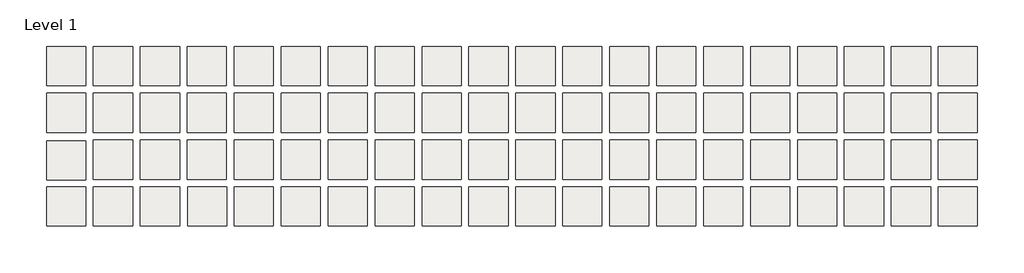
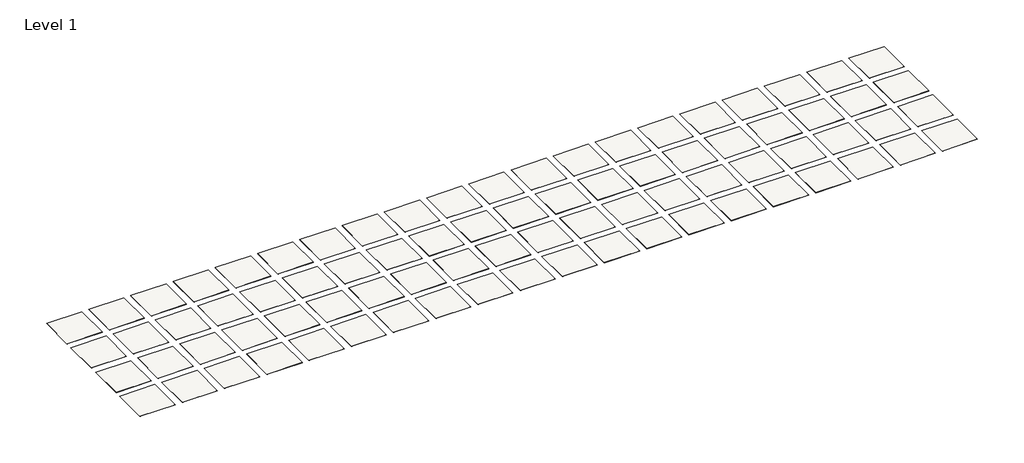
# One storey: 80 slabs.
"""IFC4 building model written with IfcOpenShell, lengths in millimetres."""

import ifcopenshell
import ifcopenshell.guid

model = None  # the IFC model being written
_history = None  # IfcOwnerHistory: only IFC2X3 demands one
_inside = {}  # id of a spatial element -> (the spatial element, [elements in it])
_under = {}  # id of a project, library or spatial element -> (it, [spatial elements below it])
_declared = {}  # id of a project -> (the project, [libraries it declares])
_typed = {}  # id of a type object -> (the type object, [elements of that type])
_made_of = {}  # id of a material, layer set ... -> (it, [elements and type objects made of it])


def new_model(schema):
    """Start an empty IFC model of exactly this schema.

    Asked for "IFC4X3", IfcOpenShell would pick the latest addendum, in which some entities
    have other attributes; the version numbers below select the first issue.
    IFC2X3 requires an IfcOwnerHistory on every rooted entity: one is made here for all.
    """
    global model, _history
    if schema == "IFC4X3":
        model = ifcopenshell.file(schema_version=(4, 3, 0, 0))
    else:
        model = ifcopenshell.file(schema=schema)
    _inside.clear()
    _under.clear()
    _declared.clear()
    _typed.clear()
    _made_of.clear()
    _history = None
    if model.schema == "IFC2X3":
        org = make("IfcOrganization", Name="unknown")
        user = make(
            "IfcPersonAndOrganization",
            ThePerson=make("IfcPerson", FamilyName="unknown"),
            TheOrganization=org,
        )
        app = make(
            "IfcApplication",
            ApplicationDeveloper=org,
            Version="unknown",
            ApplicationFullName="unknown",
            ApplicationIdentifier="unknown",
        )
        _history = make(
            "IfcOwnerHistory",
            OwningUser=user,
            OwningApplication=app,
            ChangeAction="ADDED",
            CreationDate=0,
        )
    return model


def make(cls, **values):
    """One entity of the class cls with the attributes given. An attribute that is None is left unset."""
    return model.create_entity(
        cls, **{name: value for name, value in values.items() if value is not None}
    )


def rooted(cls, **values):
    """An entity with a GlobalId (a new one), such as an element, a storey or a relation."""
    return make(cls, GlobalId=ifcopenshell.guid.new(), OwnerHistory=_history, **values)


def si_unit(unit_type, name, prefix=None):
    """IfcSIUnit, for example si_unit("LENGTHUNIT", "METRE", prefix="MILLI")."""
    return make("IfcSIUnit", UnitType=unit_type, Prefix=prefix, Name=name)


def assignment(units):
    """IfcUnitAssignment: the units of a project."""
    return None if units is None else make("IfcUnitAssignment", Units=units)


def point(xyz):
    """IfcCartesianPoint."""
    return None if xyz is None else make("IfcCartesianPoint", Coordinates=xyz)


def direction(xyz):
    """IfcDirection."""
    return None if xyz is None else make("IfcDirection", DirectionRatios=xyz)


def frame(location, z_axis=None, x_axis=None):
    """IfcAxis2Placement3D, a coordinate frame: its origin and axes. An axis left out is left unset."""
    return make(
        "IfcAxis2Placement3D",
        Location=point(location),
        Axis=direction(z_axis),
        RefDirection=direction(x_axis),
    )


def origin():
    """The frame at (0, 0, 0) with its axes left unset."""
    return frame((0.0, 0.0, 0.0))


def place(relative_to, where):
    """IfcLocalPlacement: puts the frame where relative to a parent placement (None: the world)."""
    return make(
        "IfcLocalPlacement", PlacementRelTo=relative_to, RelativePlacement=where
    )


def context(
    kind, dimensions, precision=None, world=None, true_north=None, identifier=None
):
    """IfcGeometricRepresentationContext, for example the 3D "Model" context."""
    return make(
        "IfcGeometricRepresentationContext",
        ContextIdentifier=identifier,
        ContextType=kind,
        CoordinateSpaceDimension=dimensions,
        Precision=precision,
        WorldCoordinateSystem=world,
        TrueNorth=true_north,
    )


def project(units=None, contexts=None):
    """IfcProject with its units and contexts."""
    return rooted(
        "IfcProject",
        Name="project",
        RepresentationContexts=contexts,
        UnitsInContext=assignment(units),
    )


def spatial(cls, under=None, at=None, **own):
    """A site, building, storey or space (cls), placed at a placement, below another one or the project."""
    s = rooted(cls, ObjectPlacement=at, **own)
    if under is not None:
        _under.setdefault(under.id(), (under, []))[1].append(s)
    return s


def polyline(points):
    """IfcPolyline through the points."""
    return make("IfcPolyline", Points=[point(p) for p in points])


def outline(outer, holes=None, kind="AREA"):
    """IfcArbitraryClosedProfileDef: a profile drawn as a closed curve; with holes, ...WithVoids."""
    if holes is None:
        return make("IfcArbitraryClosedProfileDef", ProfileType=kind, OuterCurve=outer)
    return make(
        "IfcArbitraryProfileDefWithVoids",
        ProfileType=kind,
        OuterCurve=outer,
        InnerCurves=holes,
    )


def extrude(swept, where, along, depth):
    """IfcExtrudedAreaSolid: the profile swept, set in the frame where, extruded along a direction by depth."""
    return make(
        "IfcExtrudedAreaSolid",
        SweptArea=swept,
        Position=where,
        ExtrudedDirection=direction(along),
        Depth=depth,
    )


def shape(context_of_items, identifier, shape_type, items):
    """IfcShapeRepresentation: the items that make up one representation, for example the "Body"."""
    return make(
        "IfcShapeRepresentation",
        ContextOfItems=context_of_items,
        RepresentationIdentifier=identifier,
        RepresentationType=shape_type,
        Items=items,
    )


def made_of(thing, what):
    """Note that an element or type object is made of a material, layer set ...; save() writes the relation."""
    if what is not None:
        _made_of.setdefault(what.id(), (what, []))[1].append(thing)
    return thing


def element(
    cls,
    number,
    at=None,
    inside=None,
    cuts=None,
    type_object=None,
    material=None,
    context=None,
    identifier="Body",
    shape_type=None,
    held_by="IfcProductDefinitionShape",
    body=None,
    shapes=None,
    **own,
):
    """One element of the class cls, such as IfcWall. Its Tag is "e" and its number.

    at: its placement. inside: the storey or other place that contains it. cuts: it is an
    opening in that element (IfcRelVoidsElement). A single representation is given by context,
    identifier, shape_type and body (its items); several are given by shapes. held_by: the class
    of the entity that holds the representations. save() writes the other relations.
    """
    e = rooted(cls, Tag="e%d" % number, ObjectPlacement=at, **own)
    if body is not None:
        shapes = [shape(context, identifier, shape_type, body)]
    if shapes is not None:
        e.Representation = make(held_by, Representations=shapes)
    if inside is not None:
        _inside.setdefault(inside.id(), (inside, []))[1].append(e)
    if cuts is not None:
        rooted(
            "IfcRelVoidsElement", RelatingBuildingElement=cuts, RelatedOpeningElement=e
        )
    if type_object is not None:
        _typed.setdefault(type_object.id(), (type_object, []))[1].append(e)
    return made_of(e, material)


def aggregate(whole, parts):
    """IfcRelAggregates: a whole, such as a stair, and the parts it consists of."""
    return rooted("IfcRelAggregates", RelatingObject=whole, RelatedObjects=parts)


def save(model, path):
    """Write the relations noted so far, then the file.

    IfcRelAggregates (storeys below a building ...), IfcRelContainedInSpatialStructure (elements
    in a storey), IfcRelDefinesByType, IfcRelAssociatesMaterial and IfcRelDeclares: one each for
    every whole, place, type object, material and project.
    """
    for whole, parts in _under.values():
        aggregate(whole, parts)
    for where, things in _inside.values():
        rooted(
            "IfcRelContainedInSpatialStructure",
            RelatedElements=things,
            RelatingStructure=where,
        )
    for kind, things in _typed.values():
        rooted("IfcRelDefinesByType", RelatedObjects=things, RelatingType=kind)
    for what, things in _made_of.values():
        rooted("IfcRelAssociatesMaterial", RelatedObjects=things, RelatingMaterial=what)
    for by, libraries in _declared.values():
        rooted("IfcRelDeclares", RelatingContext=by, RelatedDefinitions=libraries)
    model.write(path)


model = new_model("IFC4")

# Units and contexts
model_context = context("Model", 3, world=origin())
ifc_project = project(units=[si_unit("LENGTHUNIT", "METRE", prefix="MILLI")], contexts=[model_context])

# Site, building, storey
site = spatial("IfcSite", under=ifc_project)
building = spatial("IfcBuilding", under=site)
storey = spatial("IfcBuildingStorey", under=building, Name="Level 1", Elevation=0.0)

# Slabs
placement = place(None, origin())
element("IfcSlab", 1, ObjectType="Porcelain Tile - Crossville - Argent - A1401 Winter Garden 6x6", at=placement, inside=storey, context=model_context, shape_type="SweptSolid", body=[
    extrude(outline(polyline([(-18105.062096, 10184.2560993), (-18105.062096, 7136.2560993), (-21153.062096, 7136.2560993), (-21153.062096, 10184.2560993), (-18105.062096, 10184.2560993)])), frame((0.0, 0.0, -9.525), z_axis=(0.0, 0.0, 1.0), x_axis=(1.0, 0.0, 0.0)), (0.0, 0.0, 1.0), 9.525),
])
element("IfcSlab", 2, ObjectType="Porcelain Tile - Crossville - Argent - A1401 Winter Garden 12x12", at=placement, inside=storey, context=model_context, shape_type="SweptSolid", body=[
    extrude(outline(polyline([(-18105.062096, 6526.6560993), (-18105.062096, 3478.6560993), (-21153.062096, 3478.6560993), (-21153.062096, 6526.6560993), (-18105.062096, 6526.6560993)])), frame((0.0, 0.0, -9.525), z_axis=(0.0, 0.0, 1.0), x_axis=(1.0, 0.0, 0.0)), (0.0, 0.0, 1.0), 9.525),
])
element("IfcSlab", 3, ObjectType="Porcelain Tile - Crossville - Argent - A1402 Sacred Sand 6x6", at=placement, inside=storey, context=model_context, shape_type="SweptSolid", body=[
    extrude(outline(polyline([(-14447.462096, 10184.2560993), (-14447.462096, 7136.2560993), (-17495.462096, 7136.2560993), (-17495.462096, 10184.2560993), (-14447.462096, 10184.2560993)])), frame((0.0, 0.0, -9.525), z_axis=(0.0, 0.0, 1.0), x_axis=(1.0, 0.0, 0.0)), (0.0, 0.0, 1.0), 9.525),
])
element("IfcSlab", 4, ObjectType="Porcelain Tile - Crossville - Argent - A1402 Sacred Sand 12x12", at=placement, inside=storey, context=model_context, shape_type="SweptSolid", body=[
    extrude(outline(polyline([(-14447.462096, 6526.6560993), (-14447.462096, 3478.6560993), (-17495.462096, 3478.6560993), (-17495.462096, 6526.6560993), (-14447.462096, 6526.6560993)])), frame((0.0, 0.0, -9.525), z_axis=(0.0, 0.0, 1.0), x_axis=(1.0, 0.0, 0.0)), (0.0, 0.0, 1.0), 9.525),
])
element("IfcSlab", 5, ObjectType="Porcelain Tile - Crossville - Argent - A1403 No Reservations 6x6", at=placement, inside=storey, context=model_context, shape_type="SweptSolid", body=[
    extrude(outline(polyline([(-10789.862096, 10184.2560993), (-10789.862096, 7136.2560993), (-13837.862096, 7136.2560993), (-13837.862096, 10184.2560993), (-10789.862096, 10184.2560993)])), frame((0.0, 0.0, -9.525), z_axis=(0.0, 0.0, 1.0), x_axis=(1.0, 0.0, 0.0)), (0.0, 0.0, 1.0), 9.525),
])
element("IfcSlab", 6, ObjectType="Porcelain Tile - Crossville - Argent - A1403 No Reservations 12x12", at=placement, inside=storey, context=model_context, shape_type="SweptSolid", body=[
    extrude(outline(polyline([(-10789.862096, 6526.6560993), (-10789.862096, 3478.6560993), (-13837.862096, 3478.6560993), (-13837.862096, 6526.6560993), (-10789.862096, 6526.6560993)])), frame((0.0, 0.0, -9.525), z_axis=(0.0, 0.0, 1.0), x_axis=(1.0, 0.0, 0.0)), (0.0, 0.0, 1.0), 9.525),
])
element("IfcSlab", 7, ObjectType="Porcelain Tile - Crossville - Argent - A1404 Cowboy Up 6x6", at=placement, inside=storey, context=model_context, shape_type="SweptSolid", body=[
    extrude(outline(polyline([(-7132.262096, 10184.2560993), (-7132.262096, 7136.2560993), (-10180.262096, 7136.2560993), (-10180.262096, 10184.2560993), (-7132.262096, 10184.2560993)])), frame((0.0, 0.0, -9.525), z_axis=(0.0, 0.0, 1.0), x_axis=(1.0, 0.0, 0.0)), (0.0, 0.0, 1.0), 9.525),
])
element("IfcSlab", 8, ObjectType="Porcelain Tile - Crossville - Argent - A1404 Cowboy Up  12x12", at=placement, inside=storey, context=model_context, shape_type="SweptSolid", body=[
    extrude(outline(polyline([(-7132.262096, 6526.6560993), (-7132.262096, 3478.6560993), (-10180.262096, 3478.6560993), (-10180.262096, 6526.6560993), (-7132.262096, 6526.6560993)])), frame((0.0, 0.0, -9.525), z_axis=(0.0, 0.0, 1.0), x_axis=(1.0, 0.0, 0.0)), (0.0, 0.0, 1.0), 9.525),
])
element("IfcSlab", 9, ObjectType="Porcelain Tile - Crossville - Argent - A1405 Hollywood and Vine 6x6", at=placement, inside=storey, context=model_context, shape_type="SweptSolid", body=[
    extrude(outline(polyline([(-3474.662096, 10184.2560993), (-3474.662096, 7136.2560993), (-6522.662096, 7136.2560993), (-6522.662096, 10184.2560993), (-3474.662096, 10184.2560993)])), frame((0.0, 0.0, -9.525), z_axis=(0.0, 0.0, 1.0), x_axis=(1.0, 0.0, 0.0)), (0.0, 0.0, 1.0), 9.525),
])
element("IfcSlab", 10, ObjectType="Porcelain Tile - Crossville - Argent - A1405 Hollywood and Vine 12x12", at=placement, inside=storey, context=model_context, shape_type="SweptSolid", body=[
    extrude(outline(polyline([(-3474.662096, 6526.6560993), (-3474.662096, 3478.6560993), (-6522.662096, 3478.6560993), (-6522.662096, 6526.6560993), (-3474.662096, 6526.6560993)])), frame((0.0, 0.0, -9.525), z_axis=(0.0, 0.0, 1.0), x_axis=(1.0, 0.0, 0.0)), (0.0, 0.0, 1.0), 9.525),
])
element("IfcSlab", 11, ObjectType="Porcelain Tile - Crossville - Argent - A1406 Emerald City 6x6", at=placement, inside=storey, context=model_context, shape_type="SweptSolid", body=[
    extrude(outline(polyline([(182.937904, 10184.2560993), (182.937904, 7136.2560993), (-2865.062096, 7136.2560993), (-2865.062096, 10184.2560993), (182.937904, 10184.2560993)])), frame((0.0, 0.0, -9.525), z_axis=(0.0, 0.0, 1.0), x_axis=(1.0, 0.0, 0.0)), (0.0, 0.0, 1.0), 9.525),
])
element("IfcSlab", 12, ObjectType="Porcelain Tile - Crossville - Argent - A1406 Emerald City 12x12", at=placement, inside=storey, context=model_context, shape_type="SweptSolid", body=[
    extrude(outline(polyline([(182.937904, 6526.6560993), (182.937904, 3478.6560993), (-2865.062096, 3478.6560993), (-2865.062096, 6526.6560993), (182.937904, 6526.6560993)])), frame((0.0, 0.0, -9.525), z_axis=(0.0, 0.0, 1.0), x_axis=(1.0, 0.0, 0.0)), (0.0, 0.0, 1.0), 9.525),
])
element("IfcSlab", 13, ObjectType="Porcelain Tile - Crossville - Argent - A1407 Water Vapors 6x6", at=placement, inside=storey, context=model_context, shape_type="SweptSolid", body=[
    extrude(outline(polyline([(3840.537904, 10184.2560993), (3840.537904, 7136.2560993), (792.537904, 7136.2560993), (792.537904, 10184.2560993), (3840.537904, 10184.2560993)])), frame((0.0, 0.0, -9.525), z_axis=(0.0, 0.0, 1.0), x_axis=(1.0, 0.0, 0.0)), (0.0, 0.0, 1.0), 9.525),
])
element("IfcSlab", 14, ObjectType="Porcelain Tile - Crossville - Argent - A1407 Water Vapors 12x12", at=placement, inside=storey, context=model_context, shape_type="SweptSolid", body=[
    extrude(outline(polyline([(3840.537904, 6526.6560993), (3840.537904, 3478.6560993), (792.537904, 3478.6560993), (792.537904, 6526.6560993), (3840.537904, 6526.6560993)])), frame((0.0, 0.0, -9.525), z_axis=(0.0, 0.0, 1.0), x_axis=(1.0, 0.0, 0.0)), (0.0, 0.0, 1.0), 9.525),
])
element("IfcSlab", 15, ObjectType="Porcelain Tile - Crossville - Argent - A1408 Glacier Lake 6x6", at=placement, inside=storey, context=model_context, shape_type="SweptSolid", body=[
    extrude(outline(polyline([(7498.137904, 10184.2560993), (7498.137904, 7136.2560993), (4450.137904, 7136.2560993), (4450.137904, 10184.2560993), (7498.137904, 10184.2560993)])), frame((0.0, 0.0, -9.525), z_axis=(0.0, 0.0, 1.0), x_axis=(1.0, 0.0, 0.0)), (0.0, 0.0, 1.0), 9.525),
])
element("IfcSlab", 16, ObjectType="Porcelain Tile - Crossville - Argent - A1408 Glacier Lake 12x12", at=placement, inside=storey, context=model_context, shape_type="SweptSolid", body=[
    extrude(outline(polyline([(7498.137904, 6526.6560993), (7498.137904, 3478.6560993), (4450.137904, 3478.6560993), (4450.137904, 6526.6560993), (7498.137904, 6526.6560993)])), frame((0.0, 0.0, -9.525), z_axis=(0.0, 0.0, 1.0), x_axis=(1.0, 0.0, 0.0)), (0.0, 0.0, 1.0), 9.525),
])
element("IfcSlab", 17, ObjectType="Porcelain Tile - Crossville - Argent - A1409 Lemon Drop 6x6", at=placement, inside=storey, context=model_context, shape_type="SweptSolid", body=[
    extrude(outline(polyline([(11155.737904, 10184.2560993), (11155.737904, 7136.2560993), (8107.737904, 7136.2560993), (8107.737904, 10184.2560993), (11155.737904, 10184.2560993)])), frame((0.0, 0.0, -9.525), z_axis=(0.0, 0.0, 1.0), x_axis=(1.0, 0.0, 0.0)), (0.0, 0.0, 1.0), 9.525),
])
element("IfcSlab", 18, ObjectType="Porcelain Tile - Crossville - Argent - A1409 Lemon Drop 12x12", at=placement, inside=storey, context=model_context, shape_type="SweptSolid", body=[
    extrude(outline(polyline([(11155.737904, 6526.6560993), (11155.737904, 3478.6560993), (8107.737904, 3478.6560993), (8107.737904, 6526.6560993), (11155.737904, 6526.6560993)])), frame((0.0, 0.0, -9.525), z_axis=(0.0, 0.0, 1.0), x_axis=(1.0, 0.0, 0.0)), (0.0, 0.0, 1.0), 9.525),
])
element("IfcSlab", 19, ObjectType="Porcelain Tile - Crossville - Argent - A1410 Orange Crush 6x6", at=placement, inside=storey, context=model_context, shape_type="SweptSolid", body=[
    extrude(outline(polyline([(14813.337904, 10184.2560993), (14813.337904, 7136.2560993), (11765.337904, 7136.2560993), (11765.337904, 10184.2560993), (14813.337904, 10184.2560993)])), frame((0.0, 0.0, -9.525), z_axis=(0.0, 0.0, 1.0), x_axis=(1.0, 0.0, 0.0)), (0.0, 0.0, 1.0), 9.525),
])
element("IfcSlab", 20, ObjectType="Porcelain Tile - Crossville - Argent - A1410 Orange Crush 12x12", at=placement, inside=storey, context=model_context, shape_type="SweptSolid", body=[
    extrude(outline(polyline([(14813.337904, 6526.6560993), (14813.337904, 3478.6560993), (11765.337904, 3478.6560993), (11765.337904, 6526.6560993), (14813.337904, 6526.6560993)])), frame((0.0, 0.0, -9.525), z_axis=(0.0, 0.0, 1.0), x_axis=(1.0, 0.0, 0.0)), (0.0, 0.0, 1.0), 9.525),
])
element("IfcSlab", 21, ObjectType="Porcelain Tile - Crossville - Argent - A1411 Sunset Boulevard 6x6", at=placement, inside=storey, context=model_context, shape_type="SweptSolid", body=[
    extrude(outline(polyline([(18470.937904, 10184.2560993), (18470.937904, 7136.2560993), (15422.937904, 7136.2560993), (15422.937904, 10184.2560993), (18470.937904, 10184.2560993)])), frame((0.0, 0.0, -9.525), z_axis=(0.0, 0.0, 1.0), x_axis=(1.0, 0.0, 0.0)), (0.0, 0.0, 1.0), 9.525),
])
element("IfcSlab", 22, ObjectType="Porcelain Tile - Crossville - Argent - A1411 Sunset Boulevard 12x12", at=placement, inside=storey, context=model_context, shape_type="SweptSolid", body=[
    extrude(outline(polyline([(18470.937904, 6526.6560993), (18470.937904, 3478.6560993), (15422.937904, 3478.6560993), (15422.937904, 6526.6560993), (18470.937904, 6526.6560993)])), frame((0.0, 0.0, -9.525), z_axis=(0.0, 0.0, 1.0), x_axis=(1.0, 0.0, 0.0)), (0.0, 0.0, 1.0), 9.525),
])
element("IfcSlab", 23, ObjectType="Porcelain Tile - Crossville - Argent - A1412 Chicago Fire 6x6", at=placement, inside=storey, context=model_context, shape_type="SweptSolid", body=[
    extrude(outline(polyline([(22128.537904, 10184.2560993), (22128.537904, 7136.2560993), (19080.537904, 7136.2560993), (19080.537904, 10184.2560993), (22128.537904, 10184.2560993)])), frame((0.0, 0.0, -9.525), z_axis=(0.0, 0.0, 1.0), x_axis=(1.0, 0.0, 0.0)), (0.0, 0.0, 1.0), 9.525),
])
element("IfcSlab", 24, ObjectType="Porcelain Tile - Crossville - Argent - A1412 Chicago Fire 12x12", at=placement, inside=storey, context=model_context, shape_type="SweptSolid", body=[
    extrude(outline(polyline([(22128.537904, 6526.6560993), (22128.537904, 3478.6560993), (19080.537904, 3478.6560993), (19080.537904, 6526.6560993), (22128.537904, 6526.6560993)])), frame((0.0, 0.0, -9.525), z_axis=(0.0, 0.0, 1.0), x_axis=(1.0, 0.0, 0.0)), (0.0, 0.0, 1.0), 9.525),
])
element("IfcSlab", 25, ObjectType="Porcelain Tile - Crossville - Argent - A1413 Under the Sea 6x6", at=placement, inside=storey, context=model_context, shape_type="SweptSolid", body=[
    extrude(outline(polyline([(25786.137904, 10184.2560993), (25786.137904, 7136.2560993), (22738.137904, 7136.2560993), (22738.137904, 10184.2560993), (25786.137904, 10184.2560993)])), frame((0.0, 0.0, -9.525), z_axis=(0.0, 0.0, 1.0), x_axis=(1.0, 0.0, 0.0)), (0.0, 0.0, 1.0), 9.525),
])
element("IfcSlab", 26, ObjectType="Porcelain Tile - Crossville - Argent - A1413 Under the Sea 12x12", at=placement, inside=storey, context=model_context, shape_type="SweptSolid", body=[
    extrude(outline(polyline([(25786.137904, 6526.6560993), (25786.137904, 3478.6560993), (22738.137904, 3478.6560993), (22738.137904, 6526.6560993), (25786.137904, 6526.6560993)])), frame((0.0, 0.0, -9.525), z_axis=(0.0, 0.0, 1.0), x_axis=(1.0, 0.0, 0.0)), (0.0, 0.0, 1.0), 9.525),
])
element("IfcSlab", 27, ObjectType="Porcelain Tile - Crossville - Argent - A1414 Carnegie Cool 6x6", at=placement, inside=storey, context=model_context, shape_type="SweptSolid", body=[
    extrude(outline(polyline([(29443.737904, 10184.2560993), (29443.737904, 7136.2560993), (26395.737904, 7136.2560993), (26395.737904, 10184.2560993), (29443.737904, 10184.2560993)])), frame((0.0, 0.0, -9.525), z_axis=(0.0, 0.0, 1.0), x_axis=(1.0, 0.0, 0.0)), (0.0, 0.0, 1.0), 9.525),
])
element("IfcSlab", 28, ObjectType="Porcelain Tile - Crossville - Argent - A1414 Carnegie Cool 12x12", at=placement, inside=storey, context=model_context, shape_type="SweptSolid", body=[
    extrude(outline(polyline([(29443.737904, 6526.6560993), (29443.737904, 3478.6560993), (26395.737904, 3478.6560993), (26395.737904, 6526.6560993), (29443.737904, 6526.6560993)])), frame((0.0, 0.0, -9.525), z_axis=(0.0, 0.0, 1.0), x_axis=(1.0, 0.0, 0.0)), (0.0, 0.0, 1.0), 9.525),
])
element("IfcSlab", 29, ObjectType="Porcelain Tile - Crossville - Argent - A1415 Memphis Blue 6x6", at=placement, inside=storey, context=model_context, shape_type="SweptSolid", body=[
    extrude(outline(polyline([(33101.337904, 10184.2560993), (33101.337904, 7136.2560993), (30053.337904, 7136.2560993), (30053.337904, 10184.2560993), (33101.337904, 10184.2560993)])), frame((0.0, 0.0, -9.525), z_axis=(0.0, 0.0, 1.0), x_axis=(1.0, 0.0, 0.0)), (0.0, 0.0, 1.0), 9.525),
])
element("IfcSlab", 30, ObjectType="Porcelain Tile - Crossville - Argent - A1415 Memphis Blue 12x12", at=placement, inside=storey, context=model_context, shape_type="SweptSolid", body=[
    extrude(outline(polyline([(33101.337904, 6526.6560993), (33101.337904, 3478.6560993), (30053.337904, 3478.6560993), (30053.337904, 6526.6560993), (33101.337904, 6526.6560993)])), frame((0.0, 0.0, -9.525), z_axis=(0.0, 0.0, 1.0), x_axis=(1.0, 0.0, 0.0)), (0.0, 0.0, 1.0), 9.525),
])
element("IfcSlab", 31, ObjectType="Porcelain Tile - Crossville - Argent - A1416 Grapes of Wrath 6x6", at=placement, inside=storey, context=model_context, shape_type="SweptSolid", body=[
    extrude(outline(polyline([(36758.937904, 10184.2560993), (36758.937904, 7136.2560993), (33710.937904, 7136.2560993), (33710.937904, 10184.2560993), (36758.937904, 10184.2560993)])), frame((0.0, 0.0, -9.525), z_axis=(0.0, 0.0, 1.0), x_axis=(1.0, 0.0, 0.0)), (0.0, 0.0, 1.0), 9.525),
])
element("IfcSlab", 32, ObjectType="Porcelain Tile - Crossville - Argent - A1416 Grapes of Wrath 12x12", at=placement, inside=storey, context=model_context, shape_type="SweptSolid", body=[
    extrude(outline(polyline([(36758.937904, 6526.6560993), (36758.937904, 3478.6560993), (33710.937904, 3478.6560993), (33710.937904, 6526.6560993), (36758.937904, 6526.6560993)])), frame((0.0, 0.0, -9.525), z_axis=(0.0, 0.0, 1.0), x_axis=(1.0, 0.0, 0.0)), (0.0, 0.0, 1.0), 9.525),
])
element("IfcSlab", 33, ObjectType="Porcelain Tile - Crossville - Argent - A1417 Clean Slate 6x6", at=placement, inside=storey, context=model_context, shape_type="SweptSolid", body=[
    extrude(outline(polyline([(40416.537904, 10184.2560993), (40416.537904, 7136.2560993), (37368.537904, 7136.2560993), (37368.537904, 10184.2560993), (40416.537904, 10184.2560993)])), frame((0.0, 0.0, -9.525), z_axis=(0.0, 0.0, 1.0), x_axis=(1.0, 0.0, 0.0)), (0.0, 0.0, 1.0), 9.525),
])
element("IfcSlab", 34, ObjectType="Porcelain Tile - Crossville - Argent - A1417 Clean Slate 12x12", at=placement, inside=storey, context=model_context, shape_type="SweptSolid", body=[
    extrude(outline(polyline([(40416.537904, 6526.6560993), (40416.537904, 3478.6560993), (37368.537904, 3478.6560993), (37368.537904, 6526.6560993), (40416.537904, 6526.6560993)])), frame((0.0, 0.0, -9.525), z_axis=(0.0, 0.0, 1.0), x_axis=(1.0, 0.0, 0.0)), (0.0, 0.0, 1.0), 9.525),
])
element("IfcSlab", 35, ObjectType="Porcelain Tile - Crossville - Argent - A1418 Concrete Jungle 6x6", at=placement, inside=storey, context=model_context, shape_type="SweptSolid", body=[
    extrude(outline(polyline([(44074.137904, 10184.2560993), (44074.137904, 7136.2560993), (41026.137904, 7136.2560993), (41026.137904, 10184.2560993), (44074.137904, 10184.2560993)])), frame((0.0, 0.0, -9.525), z_axis=(0.0, 0.0, 1.0), x_axis=(1.0, 0.0, 0.0)), (0.0, 0.0, 1.0), 9.525),
])
element("IfcSlab", 36, ObjectType="Porcelain Tile - Crossville - Argent - A1418 Concrete Jungle 12x12", at=placement, inside=storey, context=model_context, shape_type="SweptSolid", body=[
    extrude(outline(polyline([(44074.137904, 6526.6560993), (44074.137904, 3478.6560993), (41026.137904, 3478.6560993), (41026.137904, 6526.6560993), (44074.137904, 6526.6560993)])), frame((0.0, 0.0, -9.525), z_axis=(0.0, 0.0, 1.0), x_axis=(1.0, 0.0, 0.0)), (0.0, 0.0, 1.0), 9.525),
])
element("IfcSlab", 37, ObjectType="Porcelain Tile - Crossville - Argent - A1419 Muddy Waters 6x6", at=placement, inside=storey, context=model_context, shape_type="SweptSolid", body=[
    extrude(outline(polyline([(47731.737904, 10184.2560993), (47731.737904, 7136.2560993), (44683.737904, 7136.2560993), (44683.737904, 10184.2560993), (47731.737904, 10184.2560993)])), frame((0.0, 0.0, -9.525), z_axis=(0.0, 0.0, 1.0), x_axis=(1.0, 0.0, 0.0)), (0.0, 0.0, 1.0), 9.525),
])
element("IfcSlab", 38, ObjectType="Porcelain Tile - Crossville - Argent - A1419 Muddy Waters 12x12", at=placement, inside=storey, context=model_context, shape_type="SweptSolid", body=[
    extrude(outline(polyline([(47731.737904, 6526.6560993), (47731.737904, 3478.6560993), (44683.737904, 3478.6560993), (44683.737904, 6526.6560993), (47731.737904, 6526.6560993)])), frame((0.0, 0.0, -9.525), z_axis=(0.0, 0.0, 1.0), x_axis=(1.0, 0.0, 0.0)), (0.0, 0.0, 1.0), 9.525),
])
element("IfcSlab", 39, ObjectType="Porcelain Tile - Crossville - Argent - A1420 On the Rocks 6x6", at=placement, inside=storey, context=model_context, shape_type="SweptSolid", body=[
    extrude(outline(polyline([(51389.337904, 10184.2560993), (51389.337904, 7136.2560993), (48341.337904, 7136.2560993), (48341.337904, 10184.2560993), (51389.337904, 10184.2560993)])), frame((0.0, 0.0, -9.525), z_axis=(0.0, 0.0, 1.0), x_axis=(1.0, 0.0, 0.0)), (0.0, 0.0, 1.0), 9.525),
])
element("IfcSlab", 40, ObjectType="Porcelain Tile - Crossville - Argent - A1420 On the Rocks 12x12", at=placement, inside=storey, context=model_context, shape_type="SweptSolid", body=[
    extrude(outline(polyline([(51389.337904, 6526.6560993), (51389.337904, 3478.6560993), (48341.337904, 3478.6560993), (48341.337904, 6526.6560993), (51389.337904, 6526.6560993)])), frame((0.0, 0.0, -9.525), z_axis=(0.0, 0.0, 1.0), x_axis=(1.0, 0.0, 0.0)), (0.0, 0.0, 1.0), 9.525),
])
element("IfcSlab", 41, ObjectType="Porcelain Tile - Crossville - Argent - A1401 Winter Garden 6x24", at=placement, inside=storey, context=model_context, shape_type="SweptSolid", body=[
    extrude(outline(polyline([(-18102.2338348, 2802.636661), (-18102.2338348, -245.363339), (-21150.2338348, -245.363339), (-21150.2338348, 2802.636661), (-18102.2338348, 2802.636661)])), frame((0.0, 0.0, -9.525), z_axis=(0.0, 0.0, 1.0), x_axis=(1.0, 0.0, 0.0)), (0.0, 0.0, 1.0), 9.525),
])
element("IfcSlab", 42, ObjectType="Porcelain Tile - Crossville - Argent - A1401 Winter Garden 12x24", at=placement, inside=storey, context=model_context, shape_type="SweptSolid", body=[
    extrude(outline(polyline([(-18105.062096, -788.5439007), (-18105.062096, -3836.5439007), (-21153.062096, -3836.5439007), (-21153.062096, -788.5439007), (-18105.062096, -788.5439007)])), frame((0.0, 0.0, -9.525), z_axis=(0.0, 0.0, 1.0), x_axis=(1.0, 0.0, 0.0)), (0.0, 0.0, 1.0), 9.525),
])
element("IfcSlab", 43, ObjectType="Porcelain Tile - Crossville - Argent - A1402 Sacred Sand 6x24", at=placement, inside=storey, context=model_context, shape_type="SweptSolid", body=[
    extrude(outline(polyline([(-14447.462096, 2869.0560993), (-14447.462096, -178.9439007), (-17495.462096, -178.9439007), (-17495.462096, 2869.0560993), (-14447.462096, 2869.0560993)])), frame((0.0, 0.0, -9.525), z_axis=(0.0, 0.0, 1.0), x_axis=(1.0, 0.0, 0.0)), (0.0, 0.0, 1.0), 9.525),
])
element("IfcSlab", 44, ObjectType="Porcelain Tile - Crossville - Argent - A1402 Sacred Sand 12x24", at=placement, inside=storey, context=model_context, shape_type="SweptSolid", body=[
    extrude(outline(polyline([(-14447.462096, -788.5439007), (-14447.462096, -3836.5439007), (-17495.462096, -3836.5439007), (-17495.462096, -788.5439007), (-14447.462096, -788.5439007)])), frame((0.0, 0.0, -9.525), z_axis=(0.0, 0.0, 1.0), x_axis=(1.0, 0.0, 0.0)), (0.0, 0.0, 1.0), 9.525),
])
element("IfcSlab", 45, ObjectType="Porcelain Tile - Crossville - Argent - A1403 No Reservations 6x24", at=placement, inside=storey, context=model_context, shape_type="SweptSolid", body=[
    extrude(outline(polyline([(-10789.862096, 2869.0560993), (-10789.862096, -178.9439007), (-13837.862096, -178.9439007), (-13837.862096, 2869.0560993), (-10789.862096, 2869.0560993)])), frame((0.0, 0.0, -9.525), z_axis=(0.0, 0.0, 1.0), x_axis=(1.0, 0.0, 0.0)), (0.0, 0.0, 1.0), 9.525),
])
element("IfcSlab", 46, ObjectType="Porcelain Tile - Crossville - Argent - A1403 No Reservations 12x24", at=placement, inside=storey, context=model_context, shape_type="SweptSolid", body=[
    extrude(outline(polyline([(-10789.862096, -788.5439007), (-10789.862096, -3836.5439007), (-13837.862096, -3836.5439007), (-13837.862096, -788.5439007), (-10789.862096, -788.5439007)])), frame((0.0, 0.0, -9.525), z_axis=(0.0, 0.0, 1.0), x_axis=(1.0, 0.0, 0.0)), (0.0, 0.0, 1.0), 9.525),
])
element("IfcSlab", 47, ObjectType="Porcelain Tile - Crossville - Argent - A1404 Cowboy Up  6x24", at=placement, inside=storey, context=model_context, shape_type="SweptSolid", body=[
    extrude(outline(polyline([(-7132.262096, 2869.0560993), (-7132.262096, -178.9439007), (-10180.262096, -178.9439007), (-10180.262096, 2869.0560993), (-7132.262096, 2869.0560993)])), frame((0.0, 0.0, -9.525), z_axis=(0.0, 0.0, 1.0), x_axis=(1.0, 0.0, 0.0)), (0.0, 0.0, 1.0), 9.525),
])
element("IfcSlab", 48, ObjectType="Porcelain Tile - Crossville - Argent - A1404 Cowboy Up  12x24", at=placement, inside=storey, context=model_context, shape_type="SweptSolid", body=[
    extrude(outline(polyline([(-7106.2136969, -786.3157896), (-7106.2136969, -3834.3157896), (-10154.2136969, -3834.3157896), (-10154.2136969, -786.3157896), (-7106.2136969, -786.3157896)])), frame((0.0, 0.0, -9.525), z_axis=(0.0, 0.0, 1.0), x_axis=(1.0, 0.0, 0.0)), (0.0, 0.0, 1.0), 9.525),
])
element("IfcSlab", 49, ObjectType="Porcelain Tile - Crossville - Argent - A1405 Hollywood and Vine 6x24", at=placement, inside=storey, context=model_context, shape_type="SweptSolid", body=[
    extrude(outline(polyline([(-3474.662096, 2869.0560993), (-3474.662096, -178.9439007), (-6522.662096, -178.9439007), (-6522.662096, 2869.0560993), (-3474.662096, 2869.0560993)])), frame((0.0, 0.0, -9.525), z_axis=(0.0, 0.0, 1.0), x_axis=(1.0, 0.0, 0.0)), (0.0, 0.0, 1.0), 9.525),
])
element("IfcSlab", 50, ObjectType="Porcelain Tile - Crossville - Argent - A1405 Hollywood and Vine 12x24", at=placement, inside=storey, context=model_context, shape_type="SweptSolid", body=[
    extrude(outline(polyline([(-3474.662096, -788.5439007), (-3474.662096, -3836.5439007), (-6522.662096, -3836.5439007), (-6522.662096, -788.5439007), (-3474.662096, -788.5439007)])), frame((0.0, 0.0, -9.525), z_axis=(0.0, 0.0, 1.0), x_axis=(1.0, 0.0, 0.0)), (0.0, 0.0, 1.0), 9.525),
])
element("IfcSlab", 51, ObjectType="Porcelain Tile - Crossville - Argent - A1406 Emerald City 6x24", at=placement, inside=storey, context=model_context, shape_type="SweptSolid", body=[
    extrude(outline(polyline([(182.937904, 2869.0560993), (182.937904, -178.9439007), (-2865.062096, -178.9439007), (-2865.062096, 2869.0560993), (182.937904, 2869.0560993)])), frame((0.0, 0.0, -9.525), z_axis=(0.0, 0.0, 1.0), x_axis=(1.0, 0.0, 0.0)), (0.0, 0.0, 1.0), 9.525),
])
element("IfcSlab", 52, ObjectType="Porcelain Tile - Crossville - Argent - A1406 Emerald City 12x24", at=placement, inside=storey, context=model_context, shape_type="SweptSolid", body=[
    extrude(outline(polyline([(182.937904, -788.5439007), (182.937904, -3836.5439007), (-2865.062096, -3836.5439007), (-2865.062096, -788.5439007), (182.937904, -788.5439007)])), frame((0.0, 0.0, -9.525), z_axis=(0.0, 0.0, 1.0), x_axis=(1.0, 0.0, 0.0)), (0.0, 0.0, 1.0), 9.525),
])
element("IfcSlab", 53, ObjectType="Porcelain Tile - Crossville - Argent - A1407 Water Vapors 6x24", at=placement, inside=storey, context=model_context, shape_type="SweptSolid", body=[
    extrude(outline(polyline([(3840.537904, 2869.0560993), (3840.537904, -178.9439007), (792.537904, -178.9439007), (792.537904, 2869.0560993), (3840.537904, 2869.0560993)])), frame((0.0, 0.0, -9.525), z_axis=(0.0, 0.0, 1.0), x_axis=(1.0, 0.0, 0.0)), (0.0, 0.0, 1.0), 9.525),
])
element("IfcSlab", 54, ObjectType="Porcelain Tile - Crossville - Argent - A1407 Water Vapors 12x24", at=placement, inside=storey, context=model_context, shape_type="SweptSolid", body=[
    extrude(outline(polyline([(3840.537904, -788.5439007), (3840.537904, -3836.5439007), (792.537904, -3836.5439007), (792.537904, -788.5439007), (3840.537904, -788.5439007)])), frame((0.0, 0.0, -9.525), z_axis=(0.0, 0.0, 1.0), x_axis=(1.0, 0.0, 0.0)), (0.0, 0.0, 1.0), 9.525),
])
element("IfcSlab", 55, ObjectType="Porcelain Tile - Crossville - Argent - A1408 Glacier Lake 6x24", at=placement, inside=storey, context=model_context, shape_type="SweptSolid", body=[
    extrude(outline(polyline([(7498.137904, 2869.0560993), (7498.137904, -178.9439007), (4450.137904, -178.9439007), (4450.137904, 2869.0560993), (7498.137904, 2869.0560993)])), frame((0.0, 0.0, -9.525), z_axis=(0.0, 0.0, 1.0), x_axis=(1.0, 0.0, 0.0)), (0.0, 0.0, 1.0), 9.525),
])
element("IfcSlab", 56, ObjectType="Porcelain Tile - Crossville - Argent - A1408 Glacier Lake 12x24", at=placement, inside=storey, context=model_context, shape_type="SweptSolid", body=[
    extrude(outline(polyline([(7498.137904, -788.5439007), (7498.137904, -3836.5439007), (4450.137904, -3836.5439007), (4450.137904, -788.5439007), (7498.137904, -788.5439007)])), frame((0.0, 0.0, -9.525), z_axis=(0.0, 0.0, 1.0), x_axis=(1.0, 0.0, 0.0)), (0.0, 0.0, 1.0), 9.525),
])
element("IfcSlab", 57, ObjectType="Porcelain Tile - Crossville - Argent - A1409 Lemon Drop 6x24", at=placement, inside=storey, context=model_context, shape_type="SweptSolid", body=[
    extrude(outline(polyline([(11155.737904, 2869.0560993), (11155.737904, -178.9439007), (8107.737904, -178.9439007), (8107.737904, 2869.0560993), (11155.737904, 2869.0560993)])), frame((0.0, 0.0, -9.525), z_axis=(0.0, 0.0, 1.0), x_axis=(1.0, 0.0, 0.0)), (0.0, 0.0, 1.0), 9.525),
])
element("IfcSlab", 58, ObjectType="Porcelain Tile - Crossville - Argent - A1409 Lemon Drop 12x24", at=placement, inside=storey, context=model_context, shape_type="SweptSolid", body=[
    extrude(outline(polyline([(11155.737904, -788.5439007), (11155.737904, -3836.5439007), (8107.737904, -3836.5439007), (8107.737904, -788.5439007), (11155.737904, -788.5439007)])), frame((0.0, 0.0, -9.525), z_axis=(0.0, 0.0, 1.0), x_axis=(1.0, 0.0, 0.0)), (0.0, 0.0, 1.0), 9.525),
])
element("IfcSlab", 59, ObjectType="Porcelain Tile - Crossville - Argent - A1410 Orange Crush 6x24", at=placement, inside=storey, context=model_context, shape_type="SweptSolid", body=[
    extrude(outline(polyline([(14813.337904, 2869.0560993), (14813.337904, -178.9439007), (11765.337904, -178.9439007), (11765.337904, 2869.0560993), (14813.337904, 2869.0560993)])), frame((0.0, 0.0, -9.525), z_axis=(0.0, 0.0, 1.0), x_axis=(1.0, 0.0, 0.0)), (0.0, 0.0, 1.0), 9.525),
])
element("IfcSlab", 60, ObjectType="Porcelain Tile - Crossville - Argent - A1410 Orange Crush 12x24", at=placement, inside=storey, context=model_context, shape_type="SweptSolid", body=[
    extrude(outline(polyline([(14813.337904, -788.5439007), (14813.337904, -3836.5439007), (11765.337904, -3836.5439007), (11765.337904, -788.5439007), (14813.337904, -788.5439007)])), frame((0.0, 0.0, -9.525), z_axis=(0.0, 0.0, 1.0), x_axis=(1.0, 0.0, 0.0)), (0.0, 0.0, 1.0), 9.525),
])
element("IfcSlab", 61, ObjectType="Porcelain Tile - Crossville - Argent - A1411 Sunset Boulevard 6x24", at=placement, inside=storey, context=model_context, shape_type="SweptSolid", body=[
    extrude(outline(polyline([(18470.937904, 2869.0560993), (18470.937904, -178.9439007), (15422.937904, -178.9439007), (15422.937904, 2869.0560993), (18470.937904, 2869.0560993)])), frame((0.0, 0.0, -9.525), z_axis=(0.0, 0.0, 1.0), x_axis=(1.0, 0.0, 0.0)), (0.0, 0.0, 1.0), 9.525),
])
element("IfcSlab", 62, ObjectType="Porcelain Tile - Crossville - Argent - A1411 Sunset Boulevard 12x24", at=placement, inside=storey, context=model_context, shape_type="SweptSolid", body=[
    extrude(outline(polyline([(18470.937904, -788.5439007), (18470.937904, -3836.5439007), (15422.937904, -3836.5439007), (15422.937904, -788.5439007), (18470.937904, -788.5439007)])), frame((0.0, 0.0, -9.525), z_axis=(0.0, 0.0, 1.0), x_axis=(1.0, 0.0, 0.0)), (0.0, 0.0, 1.0), 9.525),
])
element("IfcSlab", 63, ObjectType="Porcelain Tile - Crossville - Argent - A1412 Chicago Fire 6x24", at=placement, inside=storey, context=model_context, shape_type="SweptSolid", body=[
    extrude(outline(polyline([(22128.537904, 2869.0560993), (22128.537904, -178.9439007), (19080.537904, -178.9439007), (19080.537904, 2869.0560993), (22128.537904, 2869.0560993)])), frame((0.0, 0.0, -9.525), z_axis=(0.0, 0.0, 1.0), x_axis=(1.0, 0.0, 0.0)), (0.0, 0.0, 1.0), 9.525),
])
element("IfcSlab", 64, ObjectType="Porcelain Tile - Crossville - Argent - A1412 Chicago Fire 12x24", at=placement, inside=storey, context=model_context, shape_type="SweptSolid", body=[
    extrude(outline(polyline([(22128.537904, -788.5439007), (22128.537904, -3836.5439007), (19080.537904, -3836.5439007), (19080.537904, -788.5439007), (22128.537904, -788.5439007)])), frame((0.0, 0.0, -9.525), z_axis=(0.0, 0.0, 1.0), x_axis=(1.0, 0.0, 0.0)), (0.0, 0.0, 1.0), 9.525),
])
element("IfcSlab", 65, ObjectType="Porcelain Tile - Crossville - Argent - A1413 Under the Sea 6x24", at=placement, inside=storey, context=model_context, shape_type="SweptSolid", body=[
    extrude(outline(polyline([(25786.137904, 2869.0560993), (25786.137904, -178.9439007), (22738.137904, -178.9439007), (22738.137904, 2869.0560993), (25786.137904, 2869.0560993)])), frame((0.0, 0.0, -9.525), z_axis=(0.0, 0.0, 1.0), x_axis=(1.0, 0.0, 0.0)), (0.0, 0.0, 1.0), 9.525),
])
element("IfcSlab", 66, ObjectType="Porcelain Tile - Crossville - Argent - A1413 Under the Sea 12x24", at=placement, inside=storey, context=model_context, shape_type="SweptSolid", body=[
    extrude(outline(polyline([(25786.137904, -788.5439007), (25786.137904, -3836.5439007), (22738.137904, -3836.5439007), (22738.137904, -788.5439007), (25786.137904, -788.5439007)])), frame((0.0, 0.0, -9.525), z_axis=(0.0, 0.0, 1.0), x_axis=(1.0, 0.0, 0.0)), (0.0, 0.0, 1.0), 9.525),
])
element("IfcSlab", 67, ObjectType="Porcelain Tile - Crossville - Argent - A1414 Carnegie Cool 6x24", at=placement, inside=storey, context=model_context, shape_type="SweptSolid", body=[
    extrude(outline(polyline([(29443.737904, 2869.0560993), (29443.737904, -178.9439007), (26395.737904, -178.9439007), (26395.737904, 2869.0560993), (29443.737904, 2869.0560993)])), frame((0.0, 0.0, -9.525), z_axis=(0.0, 0.0, 1.0), x_axis=(1.0, 0.0, 0.0)), (0.0, 0.0, 1.0), 9.525),
])
element("IfcSlab", 68, ObjectType="Porcelain Tile - Crossville - Argent - A1414 Carnegie Cool 12x24", at=placement, inside=storey, context=model_context, shape_type="SweptSolid", body=[
    extrude(outline(polyline([(29443.737904, -788.5439007), (29443.737904, -3836.5439007), (26395.737904, -3836.5439007), (26395.737904, -788.5439007), (29443.737904, -788.5439007)])), frame((0.0, 0.0, -9.525), z_axis=(0.0, 0.0, 1.0), x_axis=(1.0, 0.0, 0.0)), (0.0, 0.0, 1.0), 9.525),
])
element("IfcSlab", 69, ObjectType="Porcelain Tile - Crossville - Argent - A1415 Memphis Blue 6x24", at=placement, inside=storey, context=model_context, shape_type="SweptSolid", body=[
    extrude(outline(polyline([(33101.337904, 2869.0560993), (33101.337904, -178.9439007), (30053.337904, -178.9439007), (30053.337904, 2869.0560993), (33101.337904, 2869.0560993)])), frame((0.0, 0.0, -9.525), z_axis=(0.0, 0.0, 1.0), x_axis=(1.0, 0.0, 0.0)), (0.0, 0.0, 1.0), 9.525),
])
element("IfcSlab", 70, ObjectType="Porcelain Tile - Crossville - Argent - A1415 Memphis Blue 12x24", at=placement, inside=storey, context=model_context, shape_type="SweptSolid", body=[
    extrude(outline(polyline([(33101.337904, -788.5439007), (33101.337904, -3836.5439007), (30053.337904, -3836.5439007), (30053.337904, -788.5439007), (33101.337904, -788.5439007)])), frame((0.0, 0.0, -9.525), z_axis=(0.0, 0.0, 1.0), x_axis=(1.0, 0.0, 0.0)), (0.0, 0.0, 1.0), 9.525),
])
element("IfcSlab", 71, ObjectType="Porcelain Tile - Crossville - Argent - A1416 Grapes of Wrath 6x24", at=placement, inside=storey, context=model_context, shape_type="SweptSolid", body=[
    extrude(outline(polyline([(36758.937904, 2869.0560993), (36758.937904, -178.9439007), (33710.937904, -178.9439007), (33710.937904, 2869.0560993), (36758.937904, 2869.0560993)])), frame((0.0, 0.0, -9.525), z_axis=(0.0, 0.0, 1.0), x_axis=(1.0, 0.0, 0.0)), (0.0, 0.0, 1.0), 9.525),
])
element("IfcSlab", 72, ObjectType="Porcelain Tile - Crossville - Argent - A1416 Grapes of Wrath 12x24", at=placement, inside=storey, context=model_context, shape_type="SweptSolid", body=[
    extrude(outline(polyline([(36758.937904, -788.5439007), (36758.937904, -3836.5439007), (33710.937904, -3836.5439007), (33710.937904, -788.5439007), (36758.937904, -788.5439007)])), frame((0.0, 0.0, -9.525), z_axis=(0.0, 0.0, 1.0), x_axis=(1.0, 0.0, 0.0)), (0.0, 0.0, 1.0), 9.525),
])
element("IfcSlab", 73, ObjectType="Porcelain Tile - Crossville - Argent - A1417 Clean Slate 6x24", at=placement, inside=storey, context=model_context, shape_type="SweptSolid", body=[
    extrude(outline(polyline([(40416.537904, 2869.0560993), (40416.537904, -178.9439007), (37368.537904, -178.9439007), (37368.537904, 2869.0560993), (40416.537904, 2869.0560993)])), frame((0.0, 0.0, -9.525), z_axis=(0.0, 0.0, 1.0), x_axis=(1.0, 0.0, 0.0)), (0.0, 0.0, 1.0), 9.525),
])
element("IfcSlab", 74, ObjectType="Porcelain Tile - Crossville - Argent - A1417 Clean Slate 12x24", at=placement, inside=storey, context=model_context, shape_type="SweptSolid", body=[
    extrude(outline(polyline([(40416.537904, -788.5439007), (40416.537904, -3836.5439007), (37368.537904, -3836.5439007), (37368.537904, -788.5439007), (40416.537904, -788.5439007)])), frame((0.0, 0.0, -9.525), z_axis=(0.0, 0.0, 1.0), x_axis=(1.0, 0.0, 0.0)), (0.0, 0.0, 1.0), 9.525),
])
element("IfcSlab", 75, ObjectType="Porcelain Tile - Crossville - Argent - A1418 Concrete Jungle 6x24", at=placement, inside=storey, context=model_context, shape_type="SweptSolid", body=[
    extrude(outline(polyline([(44074.137904, 2869.0560993), (44074.137904, -178.9439007), (41026.137904, -178.9439007), (41026.137904, 2869.0560993), (44074.137904, 2869.0560993)])), frame((0.0, 0.0, -9.525), z_axis=(0.0, 0.0, 1.0), x_axis=(1.0, 0.0, 0.0)), (0.0, 0.0, 1.0), 9.525),
])
element("IfcSlab", 76, ObjectType="Porcelain Tile - Crossville - Argent - A1418 Concrete Jungle 12x24", at=placement, inside=storey, context=model_context, shape_type="SweptSolid", body=[
    extrude(outline(polyline([(44074.137904, -788.5439007), (44074.137904, -3836.5439007), (41026.137904, -3836.5439007), (41026.137904, -788.5439007), (44074.137904, -788.5439007)])), frame((0.0, 0.0, -9.525), z_axis=(0.0, 0.0, 1.0), x_axis=(1.0, 0.0, 0.0)), (0.0, 0.0, 1.0), 9.525),
])
element("IfcSlab", 77, ObjectType="Porcelain Tile - Crossville - Argent - A1419 Muddy Waters 6x24", at=placement, inside=storey, context=model_context, shape_type="SweptSolid", body=[
    extrude(outline(polyline([(47731.737904, 2869.0560993), (47731.737904, -178.9439007), (44683.737904, -178.9439007), (44683.737904, 2869.0560993), (47731.737904, 2869.0560993)])), frame((0.0, 0.0, -9.525), z_axis=(0.0, 0.0, 1.0), x_axis=(1.0, 0.0, 0.0)), (0.0, 0.0, 1.0), 9.525),
])
element("IfcSlab", 78, ObjectType="Porcelain Tile - Crossville - Argent - A1419 Muddy Waters 12x24", at=placement, inside=storey, context=model_context, shape_type="SweptSolid", body=[
    extrude(outline(polyline([(47731.737904, -788.5439007), (47731.737904, -3836.5439007), (44683.737904, -3836.5439007), (44683.737904, -788.5439007), (47731.737904, -788.5439007)])), frame((0.0, 0.0, -9.525), z_axis=(0.0, 0.0, 1.0), x_axis=(1.0, 0.0, 0.0)), (0.0, 0.0, 1.0), 9.525),
])
element("IfcSlab", 79, ObjectType="Porcelain Tile - Crossville - Argent - A1420 On the Rocks 6x24", at=placement, inside=storey, context=model_context, shape_type="SweptSolid", body=[
    extrude(outline(polyline([(51389.337904, 2869.0560993), (51389.337904, -178.9439007), (48341.337904, -178.9439007), (48341.337904, 2869.0560993), (51389.337904, 2869.0560993)])), frame((0.0, 0.0, -9.525), z_axis=(0.0, 0.0, 1.0), x_axis=(1.0, 0.0, 0.0)), (0.0, 0.0, 1.0), 9.525),
])
element("IfcSlab", 80, ObjectType="Porcelain Tile - Crossville - Argent - A1420 On the Rocks 12x24", at=placement, inside=storey, context=model_context, shape_type="SweptSolid", body=[
    extrude(outline(polyline([(51389.337904, -788.5439007), (51389.337904, -3836.5439007), (48341.337904, -3836.5439007), (48341.337904, -788.5439007), (51389.337904, -788.5439007)])), frame((0.0, 0.0, -9.525), z_axis=(0.0, 0.0, 1.0), x_axis=(1.0, 0.0, 0.0)), (0.0, 0.0, 1.0), 9.525),
])

save(model, "model.ifc")
